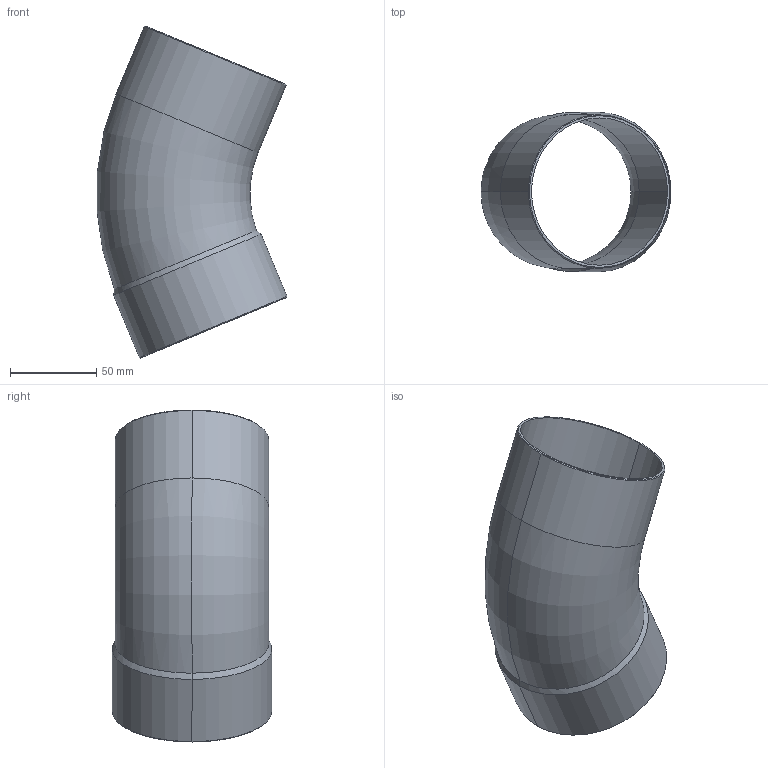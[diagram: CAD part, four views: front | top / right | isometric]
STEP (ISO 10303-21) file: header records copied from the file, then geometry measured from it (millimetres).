
FILE_DESCRIPTION((''),'2;1');
FILE_NAME('P:\Bouwmaten\z-maattekeningen 3D\5000\5040\1504089.stp','2005-10-12T13:37:29',('Kris'),(''),'Autodesk Inventor 8','Autodesk Inventor 8','');
FILE_SCHEMA(('AUTOMOTIVE_DESIGN { 1 0 10303 214 1 1 1 1 }'));
Length unit declared in the file: millimetre
Products named in the file (1): 1504089
Bounding box: 110 x 92.5 x 192.31 mm (x, y, z)
Volume: 82929.3 mm3; surface area: 93017.8 mm2
Topology: 1 solids, 1 shells, 24 faces, 50 edges, 28 vertices
Faces by surface type: cone 10, cylinder 8, torus 4, plane 2
Entity records: 729 total; most frequent: CARTESIAN_POINT 179, DIRECTION 124, ORIENTED_EDGE 100, AXIS2_PLACEMENT_3D 53, EDGE_CURVE 50, VERTEX_POINT 28, CIRCLE 28, EDGE_LOOP 26
